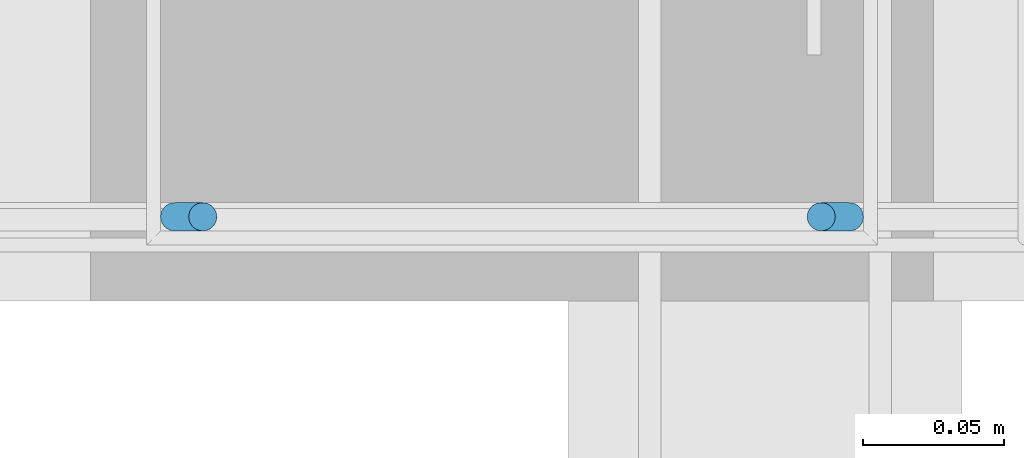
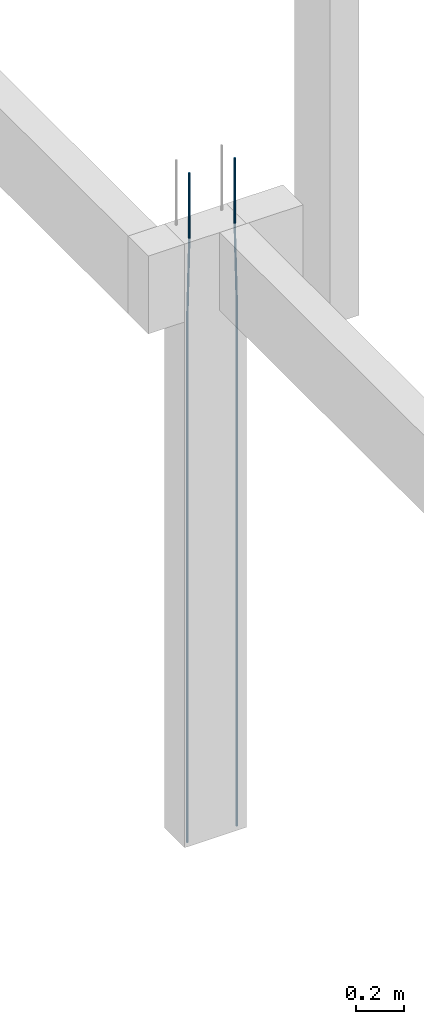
# One storey, part 68 of 236: 2 reinforcing bars.
"""IFC4 building model written with IfcOpenShell, lengths in centimetres."""

from ifc_helpers import new_model, entity, si_unit, derived_unit, frame, origin_with_axes, place, context, project, spatial, element, save


model = new_model("IFC4")

# Units and contexts
model_context = context("Model", 3, precision=1e-05, world=origin_with_axes(), identifier="Body")
ifc_project = project(units=[si_unit("LENGTHUNIT", "METRE", prefix="CENTI"), si_unit("VOLUMEUNIT", "CUBIC_METRE"), si_unit("AREAUNIT", "SQUARE_METRE"), si_unit("POWERUNIT", "WATT"), si_unit("LUMINOUSFLUXUNIT", "LUMEN"), si_unit("ELECTRICCURRENTUNIT", "AMPERE"), si_unit("PRESSUREUNIT", "PASCAL", prefix="KILO"), si_unit("MASSUNIT", "GRAM", prefix="KILO"), si_unit("PLANEANGLEUNIT", "RADIAN"), derived_unit("VOLUMETRICFLOWRATEUNIT", [(si_unit("LENGTHUNIT", "METRE"), 3), (si_unit("TIMEUNIT", "SECOND"), -1)])], contexts=[model_context])

# Site, building, storey
site_placement = place(None, frame((-4000.0, 0.0, 0.0), z_axis=(0.0, 0.0, 1.0), x_axis=(1.0, 0.0, 0.0)))
site = spatial("IfcSite", under=ifc_project, at=site_placement, Name="PADRÃO")
building_placement = place(site_placement, frame((0.0, 0.0, -14.0)))
building = spatial("IfcBuilding", under=site, at=building_placement, Name="CRECHE PRÉ-ESCOLA TIPO 2")
placement_1 = place(building_placement, origin_with_axes())
placement_2 = place(placement_1, frame((0.0, 0.0, 30.0), z_axis=(0.0, 0.0, 1.0), x_axis=(1.0, 0.0, 0.0)))
storey_placement = place(placement_2, frame((0.0, 0.0, 310.0), z_axis=(0.0, 0.0, 1.0), x_axis=(1.0, 0.0, 0.0)))
storey = spatial("IfcBuildingStorey", under=building, at=storey_placement, Name="TERREO", CompositionType="ELEMENT", Elevation=326.0)

# Reinforcing bars
reinforcing_bar_1_placement = place(storey_placement, frame((278.5, 3195.0, 33.3573001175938), z_axis=(0.0, 0.0, 1.0), x_axis=(1.0, 0.0, 0.0)))
element("IfcReinforcingBar", 1, at=reinforcing_bar_1_placement, inside=storey, Name="P47 - Longitudinal", BarLength=0.0, CrossSectionArea=7.853981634e-05, NominalDiameter=1.0, PredefinedType="MAIN", context=model_context, shape_type="AdvancedSweptSolid", body=[
    entity("IfcSweptDiskSolid", entity("IfcCompositeCurve", [entity("IfcCompositeCurveSegment", "CONTINUOUS", True, entity("IfcPolyline", [entity("IfcCartesianPoint", [0.5, 0.0, -343.357300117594]), entity("IfcCartesianPoint", [0.5, 0.0, -73.3573001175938])])), entity("IfcCompositeCurveSegment", "CONTINUOUS", True, entity("IfcPolyline", [entity("IfcCartesianPoint", [0.5, 0.0, -73.3573001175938]), entity("IfcCartesianPoint", [-0.5, 0.0, -33.3573001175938])])), entity("IfcCompositeCurveSegment", "CONTINUOUS", True, entity("IfcPolyline", [entity("IfcCartesianPoint", [-0.5, 0.0, -33.3573001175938]), entity("IfcCartesianPoint", [-0.5, 0.0, 0.0])]))], False), 0.5),
])
reinforcing_bar_2_placement = place(storey_placement, frame((255.5, 3195.0, 33.3573001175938), z_axis=(0.0, 0.0, 1.0), x_axis=(1.0, 0.0, 0.0)))
element("IfcReinforcingBar", 2, at=reinforcing_bar_2_placement, inside=storey, Name="P47 - Longitudinal", BarLength=0.0, CrossSectionArea=7.853981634e-05, NominalDiameter=1.0, PredefinedType="MAIN", context=model_context, shape_type="AdvancedSweptSolid", body=[
    entity("IfcSweptDiskSolid", entity("IfcCompositeCurve", [entity("IfcCompositeCurveSegment", "CONTINUOUS", True, entity("IfcPolyline", [entity("IfcCartesianPoint", [-0.5, 0.0, -343.357300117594]), entity("IfcCartesianPoint", [-0.5, 0.0, -73.3573001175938])])), entity("IfcCompositeCurveSegment", "CONTINUOUS", True, entity("IfcPolyline", [entity("IfcCartesianPoint", [-0.5, 0.0, -73.3573001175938]), entity("IfcCartesianPoint", [0.5, 0.0, -33.3573001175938])])), entity("IfcCompositeCurveSegment", "CONTINUOUS", True, entity("IfcPolyline", [entity("IfcCartesianPoint", [0.5, 0.0, -33.3573001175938]), entity("IfcCartesianPoint", [0.5, 0.0, 0.0])]))], False), 0.5),
])

save(model, "model.ifc")
